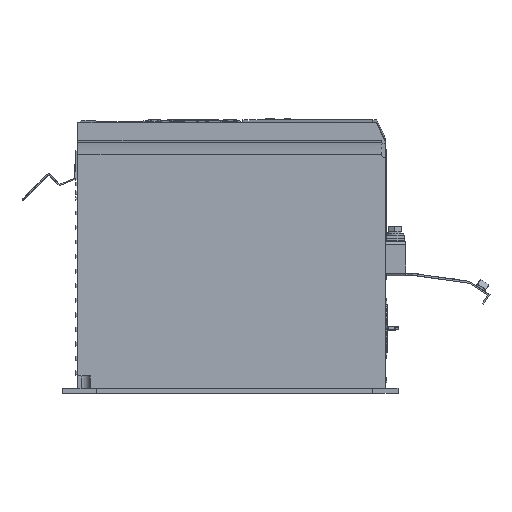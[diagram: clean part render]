
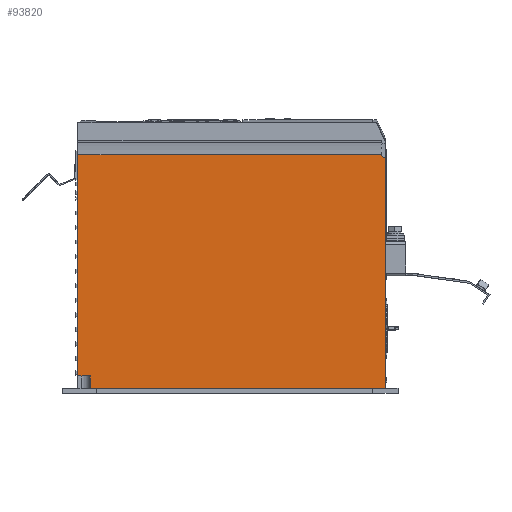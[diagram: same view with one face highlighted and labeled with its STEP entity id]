
A CAD part, left-side view. The second image highlights one B-rep face of the part: STEP entity #93820.
In plain terms, the highlighted planar face has unit normal (-1, 0, 0).
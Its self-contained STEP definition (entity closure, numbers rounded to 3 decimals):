
#23919=DIRECTION('',(0.,0.,-1.));
#23920=VECTOR('',#23919,183.383);
#23921=CARTESIAN_POINT('',(-130.54,-257.75,187.383));
#23922=LINE('',#23921,#23920);
#23926=DIRECTION('',(0.,1.,0.));
#23927=VECTOR('',#23926,235.5);
#23928=CARTESIAN_POINT('',(-130.54,-257.75,4.));
#23929=LINE('',#23928,#23927);
#23933=DIRECTION('',(0.,0.,-1.));
#23934=VECTOR('',#23933,9.9);
#23935=CARTESIAN_POINT('',(-130.54,-22.25,13.9));
#23936=LINE('',#23935,#23934);
#23940=CARTESIAN_POINT('',(-130.54,-21.9,13.9));
#23941=DIRECTION('',(1.,0.,0.));
#23942=DIRECTION('',(0.,0.,1.));
#23943=AXIS2_PLACEMENT_3D('',#23940,#23941,#23942);
#23948=DIRECTION('',(0.,-1.,0.));
#23949=VECTOR('',#23948,9.65);
#23950=CARTESIAN_POINT('',(-130.54,-12.25,14.25));
#23951=LINE('',#23950,#23949);
#23955=DIRECTION('',(0.,0.,1.));
#23956=VECTOR('',#23955,176.264);
#23957=CARTESIAN_POINT('',(-130.54,-12.25,14.25));
#23958=LINE('',#23957,#23956);
#23962=DIRECTION('',(0.,-1.,0.));
#23963=VECTOR('',#23962,242.343);
#23964=CARTESIAN_POINT('',(-130.54,-12.25,190.514));
#23965=LINE('',#23964,#23963);
#23969=CARTESIAN_POINT('',(-130.54,-254.593,
190.514));
#23970=CARTESIAN_POINT('',(-130.54,-254.614,
190.513));
#23971=CARTESIAN_POINT('',(-130.54,-254.655,190.508));
#23972=CARTESIAN_POINT('',(-130.54,-254.714,190.483));
#23973=CARTESIAN_POINT('',(-130.54,-254.748,190.458));
#23974=CARTESIAN_POINT('',(-130.54,-254.763,190.442));
#23979=CARTESIAN_POINT('',(-130.54,-254.763,190.442));
#23980=CARTESIAN_POINT('',(-130.54,-255.088,190.122));
#23981=CARTESIAN_POINT('',(-130.54,-255.737,189.482));
#23982=CARTESIAN_POINT('',(-130.54,-256.706,188.526));
#23983=CARTESIAN_POINT('',(-130.54,-257.35,187.891));
#23984=CARTESIAN_POINT('',(-130.54,-257.671,187.573));
#23989=CARTESIAN_POINT('',(-130.54,-257.671,187.573));
#23990=CARTESIAN_POINT('',(-130.54,-257.684,187.561));
#23991=CARTESIAN_POINT('',(-130.54,-257.706,187.535));
#23992=CARTESIAN_POINT('',(-130.54,-257.731,187.488));
#23993=CARTESIAN_POINT('',(-130.54,-257.747,187.436));
#23994=CARTESIAN_POINT('',(-130.54,-257.75,187.401));
#23995=CARTESIAN_POINT('',(-130.54,-257.75,187.383));
#49246=CARTESIAN_POINT('',(-130.54,-254.593,
190.514));
#56351=CARTESIAN_POINT('',(-130.54,-12.25,14.25));
#56352=CARTESIAN_POINT('',(-130.54,-12.25,190.514));
#56353=VERTEX_POINT('',#56351);
#56354=VERTEX_POINT('',#56352);
#56355=CARTESIAN_POINT('',(-130.54,-22.25,4.));
#56357=VERTEX_POINT('',#56355);
#56361=CARTESIAN_POINT('',(-130.54,-22.25,13.9));
#56362=VERTEX_POINT('',#56361);
#56363=CARTESIAN_POINT('',(-130.54,-21.9,14.25));
#56364=VERTEX_POINT('',#56363);
#56389=CARTESIAN_POINT('',(-130.54,-257.75,4.));
#56391=VERTEX_POINT('',#56389);
#56392=CARTESIAN_POINT('',(-130.54,-257.75,187.383));
#56393=VERTEX_POINT('',#56392);
#56408=VERTEX_POINT('',#49246);
#56411=VERTEX_POINT('',#23974);
#56412=VERTEX_POINT('',#23984);
#93796=CARTESIAN_POINT('',(-130.54,-258.,4.));
#93797=DIRECTION('',(-1.,0.,0.));
#93798=DIRECTION('',(0.,0.,1.));
#93799=AXIS2_PLACEMENT_3D('',#93796,#93797,#93798);
#93800=PLANE('',#93799);
#93801=ORIENTED_EDGE('',*,*,#61978,.T.);
#93802=ORIENTED_EDGE('',*,*,#62014,.T.);
#93804=ORIENTED_EDGE('',*,*,#93803,.F.);
#93806=ORIENTED_EDGE('',*,*,#93805,.F.);
#93808=ORIENTED_EDGE('',*,*,#93807,.F.);
#93810=ORIENTED_EDGE('',*,*,#93809,.T.);
#93812=ORIENTED_EDGE('',*,*,#93811,.T.);
#93814=ORIENTED_EDGE('',*,*,#93813,.T.);
#93816=ORIENTED_EDGE('',*,*,#93815,.T.);
#93817=ORIENTED_EDGE('',*,*,#93781,.T.);
#93818=EDGE_LOOP('',(#93801,#93802,#93804,#93806,#93808,#93810,#93812,#93814,
#93816,#93817));
#93819=FACE_OUTER_BOUND('',#93818,.F.);
#93820=ADVANCED_FACE('',(#93819),#93800,.T.);
#23944=CIRCLE('',#23943,0.35);
#23975=B_SPLINE_CURVE_WITH_KNOTS('',3,(#23969,#23970,#23971,#23972,#23973,
#23974),.UNSPECIFIED.,.F.,.F.,(4,1,1,4),(0.,0.333,
0.667,1.),.UNSPECIFIED.);
#23985=B_SPLINE_CURVE_WITH_KNOTS('',3,(#23979,#23980,#23981,#23982,#23983,
#23984),.UNSPECIFIED.,.F.,.F.,(4,1,1,4),(0.,0.333,
0.667,1.),.UNSPECIFIED.);
#23996=B_SPLINE_CURVE_WITH_KNOTS('',3,(#23989,#23990,#23991,#23992,#23993,
#23994,#23995),.UNSPECIFIED.,.F.,.F.,(4,1,1,1,4),(0.,0.25,0.5,0.75,
1.),.UNSPECIFIED.);
#61978=EDGE_CURVE('',#56393,#56391,#23922,.T.);
#62014=EDGE_CURVE('',#56391,#56357,#23929,.T.);
#93781=EDGE_CURVE('',#56412,#56393,#23996,.T.);
#93803=EDGE_CURVE('',#56362,#56357,#23936,.T.);
#93805=EDGE_CURVE('',#56364,#56362,#23944,.T.);
#93807=EDGE_CURVE('',#56353,#56364,#23951,.T.);
#93809=EDGE_CURVE('',#56353,#56354,#23958,.T.);
#93811=EDGE_CURVE('',#56354,#56408,#23965,.T.);
#93813=EDGE_CURVE('',#56408,#56411,#23975,.T.);
#93815=EDGE_CURVE('',#56411,#56412,#23985,.T.);
